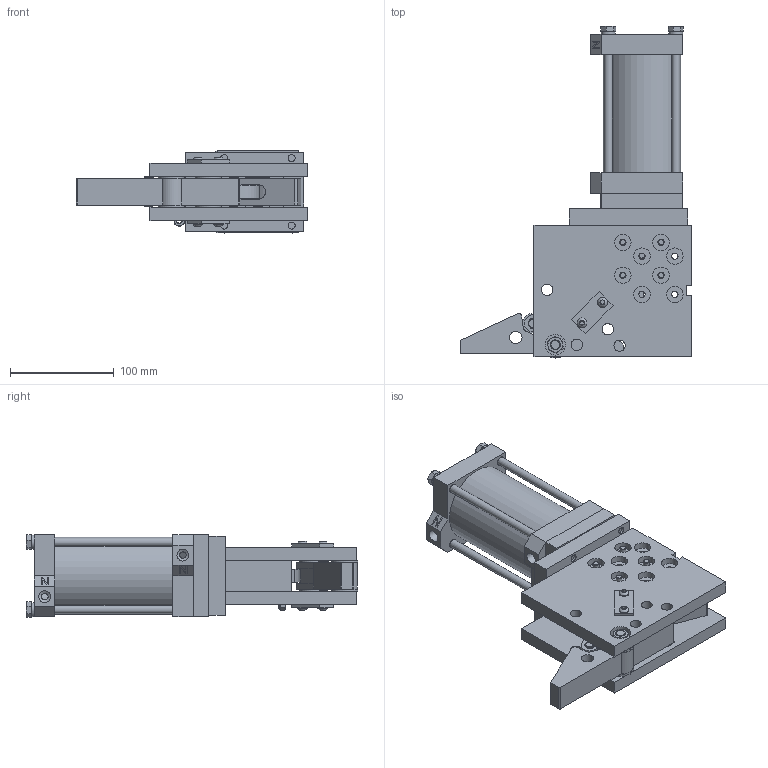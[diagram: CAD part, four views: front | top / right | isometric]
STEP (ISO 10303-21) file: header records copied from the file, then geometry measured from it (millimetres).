
FILE_DESCRIPTION(/* description */ (''),/* implementation_level */ '2;1');
FILE_NAME(/* name */ 'C:\Users\dholt\Desktop\CMX08H02A00.stp',/* time_stamp */ '2016-05-03T14:49:41-04:00',/* author */ ('DHolt'),/* organization */ (''),/* preprocessor_version */ 'ST-DEVELOPER v15.2',/* originating_system */ 'Autodesk Inventor 2014',/* authorisation */ '');
FILE_SCHEMA (('AUTOMOTIVE_DESIGN { 1 0 10303 214 3 1 1 }'));
Length unit declared in the file: centimetre
Products named in the file (42): NUT; NYLON; CMXE01-RH; CMXE01-LH; CMXE05; CMXE06; CMXE07; CMXE19; 0.500X1.500XHH-.250; 0.375-16 HEXJAMNUT; CJ08E10-4; 1 OD X .500 ID X .03; M5X0.8-12 BHCS; C-31ST-PA; CMXE13; CMXE04; 0.438-20X1.750 FLATPOINT; CMXE17; WCW-2169E01-50; CMXE15-05; CMXE22; M8X1.25-20 SHCS; CMXE02; CMXE03L; DB4E16; MC0750X1000-125N; TSR-075BN70; UBS40E01N; UBS40E08; S01303E04; MOR-2.0X016.0bn70; TSP-332BN70; MA1500x2.75DIA; 0.625ID-SAE; 0.625-18 HEXNUT; UBS40E02-50; UBS40E03N; MOR-3.0X064.0bn70; NL8; 0.313-24X7.250 HEX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
Bounding box: 223.77 x 320.15 x 79.37 mm (x, y, z)
Volume: 1385113.6 mm3; surface area: 456109.2 mm2
Topology: 72 solids, 72 shells, 1073 faces, 2304 edges, 1496 vertices
Faces by surface type: plane 517, cylinder 374, cone 160, torus 16, bspline 6
Full cylindrical faces by diameter (mm): 4.134 x4, 5 x4, 5.076 x1, 5.188 x4, 5.2 x4, 6 x14, 6.045 x16, 6.401 x2, 6.538 x1, 6.647 x16, 6.782 x4, 7.01 x6, 7.798 x1, 7.925 x9, 7.938 x4, 8 x19, 8.026 x20, 8.5 x4, 8.7 x4, 8.731 x8, 9 x4, 9.5 x4, 9.525 x2, 9.728 x3, 10.917 x8, 11.113 x1, 11.43 x4, 11.445 x2, 12 x1, 12.7 x11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
Entity records: 20968 total; most frequent: CARTESIAN_POINT 4159, DIRECTION 3564, ORIENTED_EDGE 2614, AXIS2_PLACEMENT_3D 1530, EDGE_LOOP 1320, EDGE_CURVE 1307, VERTEX_POINT 1011, ADVANCED_FACE 752
